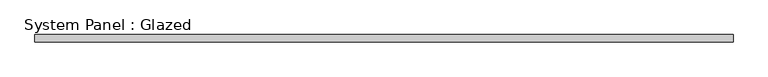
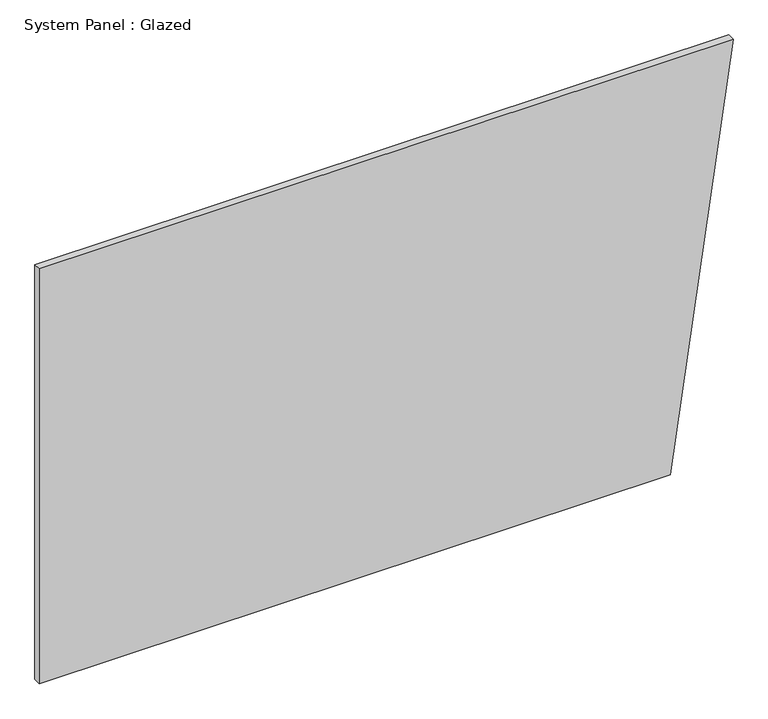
"""IFC4 building model written with IfcOpenShell, lengths in millimetres: plate geometry, System Panel : Glazed."""

from ifc_helpers import new_model, si_unit, frame, origin, place, context, project, spatial, polyline, outline, extrude, source, transform, mapped, element, save


def system_panel_glazed_2f9a95bf(model_context):
    return source(origin(), model_context, "Body", "SweptSolid", [
        extrude(outline(polyline([(0.0, -1206.0431654), (0.0, 986.7625899), (1524.0, 1206.0431654), (1524.0, -1206.0431654), (0.0, -1206.0431654)])), frame((0.0, 19.05, 0.0), z_axis=(0.0, 1.0, 0.0), x_axis=(0.0, 0.0, 1.0)), (0.0, 0.0, 1.0), 25.4),
    ])


if __name__ == "__main__":
    model = new_model("IFC4")
    model_context = context("Model", 3, world=origin())
    ifc_project = project(units=[si_unit("LENGTHUNIT", "METRE", prefix="MILLI")], contexts=[model_context])
    site = spatial("IfcSite", under=ifc_project)
    building = spatial("IfcBuilding", under=site)
    placement = place(None, origin())
    system_panel_glazed_shape = system_panel_glazed_2f9a95bf(model_context)
    element("IfcPlate", 1, ObjectType="System Panel : Glazed", at=placement, inside=building, context=model_context, shape_type="MappedRepresentation", body=[
        mapped(system_panel_glazed_shape, transform((0.0, 0.0, 0.0), x_axis=(1.0, 0.0, 0.0), y_axis=(0.0, 1.0, 0.0), z_axis=(0.0, 0.0, 1.0))),
    ])
    save(model, "model.ifc")
